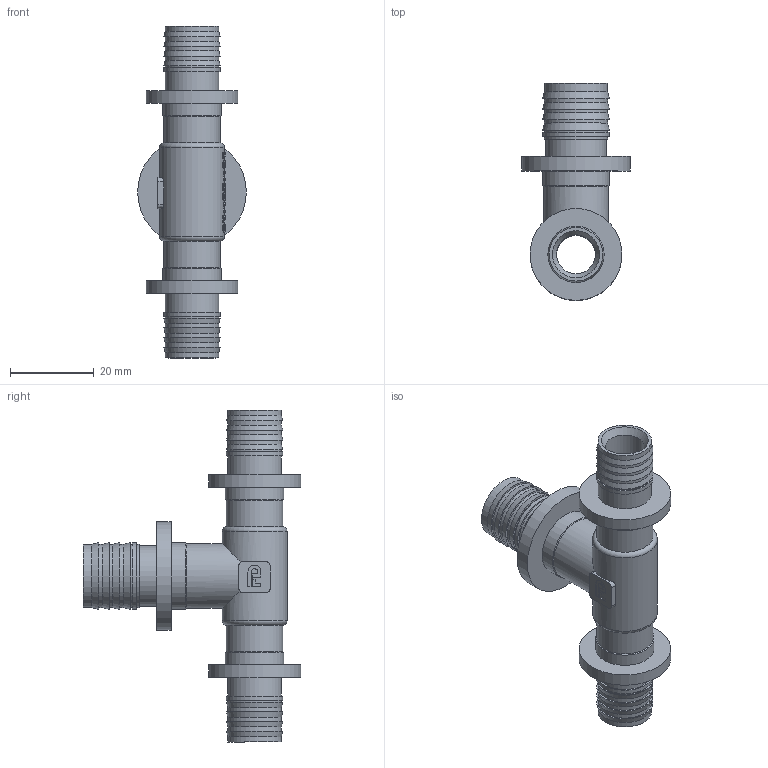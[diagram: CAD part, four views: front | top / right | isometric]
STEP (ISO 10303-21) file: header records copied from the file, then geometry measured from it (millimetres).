
FILE_DESCRIPTION(/* description */ (''),/* implementation_level */ '2;1');
FILE_NAME(/* name */ 'C:\Users\Doom\Desktop\Фадотех\Натяжка\SFT27_NEW 16X16X20 21.08.2020\SFT27_NEW 16X16X20 21.08.2020.stp',/* time_stamp */ '2022-07-26T01:29:05+03:00',/* author */ ('Doom'),/* organization */ (''),/* preprocessor_version */ 'ST-DEVELOPER v18',/* originating_system */ 'Autodesk Inventor 2020',/* authorisation */ '');
FILE_SCHEMA (('AUTOMOTIVE_DESIGN { 1 0 10303 214 3 1 1 }'));
Length unit declared in the file: millimetre
Products named in the file (1): SFT27_NEW 16X16X20 21.08.2020
Bounding box: 26 x 52 x 79.5 mm (x, y, z)
Volume: 12319.7 mm3; surface area: 11046.6 mm2
Topology: 1 solids, 1 shells, 241 faces, 664 edges, 462 vertices
Faces by surface type: bspline 95, plane 81, cylinder 45, cone 18, torus 2
Full cylindrical faces by diameter (mm): 9.3 x1, 10.8 x1, 12.8 x12, 13.5 x4, 14 x2, 14.5 x1, 15.1 x6, 15.5 x2, 16 x2, 22 x2, 26 x1
Entity records: 9945 total; most frequent: CARTESIAN_POINT 4145, ORIENTED_EDGE 1328, DIRECTION 968, EDGE_CURVE 664, VERTEX_POINT 462, AXIS2_PLACEMENT_3D 353, EDGE_LOOP 282, LINE 262
